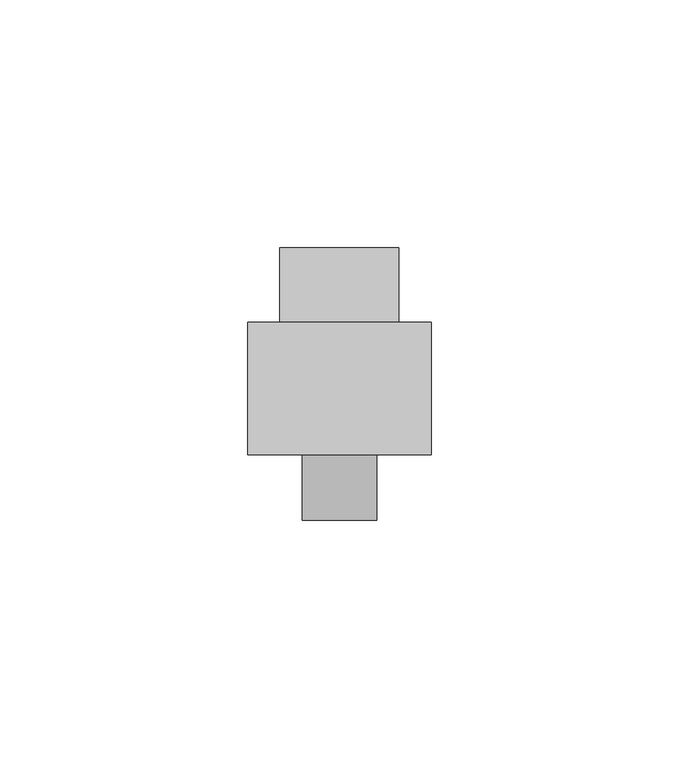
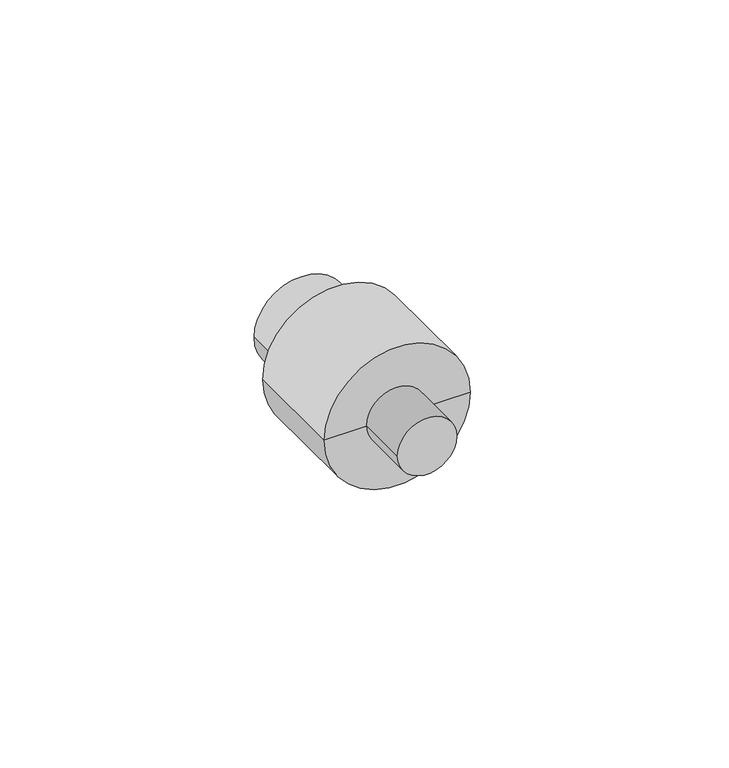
"""IFC4 building model written with IfcOpenShell, lengths in millimetres: pipe fitting geometry, NIRON RED termofusion roscado enlace rosca macho : Estándar."""

from ifc_helpers import new_model, si_unit, point, frame, origin, origin_2d, place, context, project, spatial, circle_curve, trimmed, segment, composite_curve, outline, extrude, source, transform, mapped, element, save
from ifc_brep_helpers import plane_surface, cylinder_surface, advanced_brep


def pipe_fitting_9357dcdb(model_context):
    return source(origin(), model_context, "Body", "SolidModel", [
        extrude(outline(composite_curve([segment(trimmed(circle_curve(origin_2d(), 7.5), [point((0.0, -7.5))], [point((0.0, 7.5))], False, "CARTESIAN"), True, "CONTINUOUS"), segment(trimmed(circle_curve(origin_2d(), 7.5), [point((0.0, 7.5))], [point((0.0, -7.5))], False, "CARTESIAN"), True, "CONTINUOUS")], self_intersect=False)), frame((0.0, -5.0, 0.0), z_axis=(0.0, 1.0, 0.0), x_axis=(0.0, 0.0, 1.0)), (0.0, 0.0, 1.0), 30.0),
        advanced_brep(
        [(12.0, 50.0, 0.0), (-12.0, 50.0, 0.0), (0.0, 50.0, 0.0), (18.5, 8.2, 0.0), (-18.5, 8.2, 0.0), (-18.5, 35.0, 0.0), (18.5, 35.0, 0.0), (0.0, 8.2, 0.0), (12.0, 35.0, 0.0), (-12.0, 35.0, 0.0)],
        [
            (0, 1, circle_curve(frame((0.0, 50.0, 0.0), z_axis=(0.0, 1.0, 0.0), x_axis=(-1.0, 0.0, 0.0)), 12.0)),
            (1, 2),
            (2, 0),
            (1, 0, circle_curve(frame((0.0, 50.0, 0.0), z_axis=(0.0, 1.0, 0.0), x_axis=(-1.0, 0.0, 0.0)), 12.0)),
            (3, 4, circle_curve(frame((0.0, 8.2, 0.0), z_axis=(0.0, 1.0, 0.0), x_axis=(-1.0, 0.0, 0.0)), 18.5)),
            (4, 5),
            (5, 6, circle_curve(frame((0.0, 35.0, 0.0), z_axis=(0.0, -1.0, 0.0), x_axis=(-1.0, 0.0, 0.0)), 18.5)),
            (6, 3),
            (4, 3, circle_curve(frame((0.0, 8.2, 0.0), z_axis=(0.0, 1.0, 0.0), x_axis=(-1.0, 0.0, 0.0)), 18.5)),
            (6, 5, circle_curve(frame((0.0, 35.0, 0.0), z_axis=(0.0, -1.0, 0.0), x_axis=(-1.0, 0.0, 0.0)), 18.5)),
            (7, 4),
            (3, 7),
            (8, 9, circle_curve(frame((0.0, 35.0, 0.0), z_axis=(0.0, 1.0, 0.0), x_axis=(-1.0, 0.0, 0.0)), 12.0)),
            (9, 1),
            (0, 8),
            (9, 8, circle_curve(frame((0.0, 35.0, 0.0), z_axis=(0.0, 1.0, 0.0), x_axis=(-1.0, 0.0, 0.0)), 12.0)),
            (5, 9),
            (8, 6),
        ],
        [
            plane_surface(frame((0.0, 50.0, 0.0), z_axis=(0.0, 1.0, 0.0), x_axis=(-1.0, 0.0, 0.0))),
            cylinder_surface(frame((0.0, 60.0, 0.0), z_axis=(0.0, -1.0, 0.0), x_axis=(-1.0, 0.0, 0.0)), 18.5),
            plane_surface(frame((0.0, 8.2, 0.0), z_axis=(0.0, -1.0, 0.0), x_axis=(-1.0, 0.0, 0.0))),
            cylinder_surface(frame((0.0, 60.0, 0.0), z_axis=(0.0, -1.0, 0.0), x_axis=(-1.0, 0.0, 0.0)), 12.0),
            plane_surface(frame((0.0, 35.0, 0.0), z_axis=(0.0, 1.0, 0.0), x_axis=(-1.0, 0.0, 0.0))),
        ],
        [
            (0, [[1, 2, 3]]),
            (0, [[4, -3, -2]]),
            (1, [[5, 6, 7, 8]]),
            (1, [[9, -8, 10, -6]]),
            (2, [[11, -5, 12]]),
            (2, [[-12, -9, -11]]),
            (3, [[13, 14, -1, 15]]),
            (3, [[16, -15, -4, -14]]),
            (4, [[-7, 17, -13, 18]]),
            (4, [[-10, -18, -16, -17]]),
        ],
    ),
    ])


if __name__ == "__main__":
    model = new_model("IFC4")
    model_context = context("Model", 3, world=origin())
    ifc_project = project(units=[si_unit("LENGTHUNIT", "METRE", prefix="MILLI")], contexts=[model_context])
    site = spatial("IfcSite", under=ifc_project)
    building = spatial("IfcBuilding", under=site)
    placement = place(None, origin())
    pipe_fitting_shape = pipe_fitting_9357dcdb(model_context)
    element("IfcPipeFitting", 1, ObjectType="NIRON RED termofusion roscado enlace rosca macho : Estándar", at=placement, inside=building, context=model_context, shape_type="MappedRepresentation", body=[
        mapped(pipe_fitting_shape, transform((0.0, 0.0, 0.0), x_axis=(1.0, 0.0, 0.0), y_axis=(0.0, 1.0, 0.0), z_axis=(0.0, 0.0, 1.0))),
    ])
    save(model, "model.ifc")
